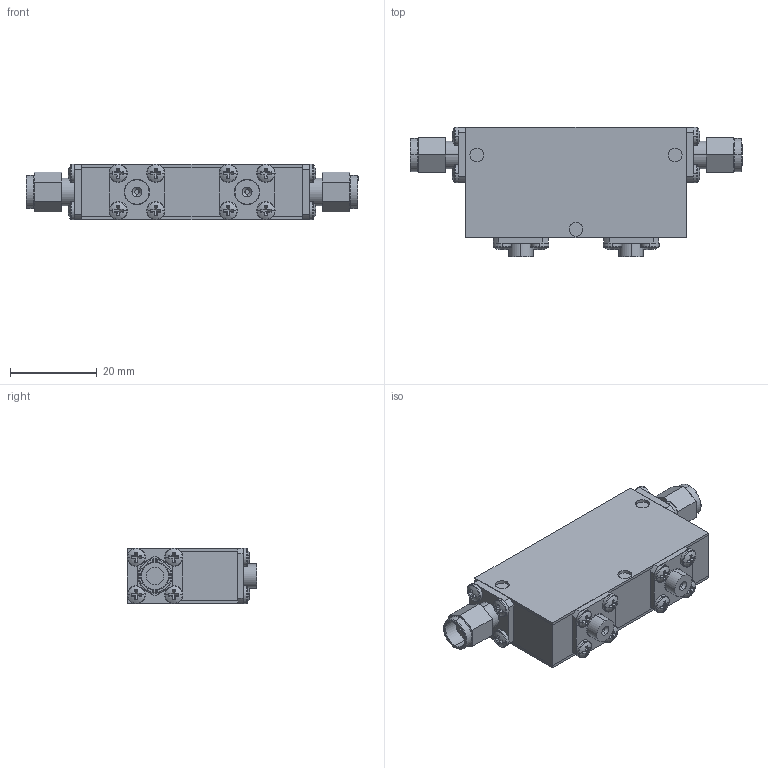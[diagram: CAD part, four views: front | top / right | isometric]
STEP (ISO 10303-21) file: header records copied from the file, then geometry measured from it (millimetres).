
FILE_DESCRIPTION (( 'STEP AP214' ), '1' );
FILE_NAME ('Package 14 Iso MM.step', '2021-12-01T20:58:12', ( '' ), ( '' ), 'SwSTEP 2.0', 'SolidWorks 2016', '' );
FILE_SCHEMA (( 'AUTOMOTIVE_DESIGN' ));
Length unit declared in the file: inch
Products named in the file (6): Package 14 Iso MM; Package Size 14; pan cross head_ai_CR-PHMS 0.086-56x0.125x0.125-N; Delta SMA-Male; Package 14; 030013-1A
Assembly tree (22 placements, depth 2):
  Package 14 Iso MM
    Package 14
    030013-1A  x2
    pan cross head_ai_CR-PHMS 0.086-56x0.125x0.125-N  x16
    Delta SMA-Male  x2
    Package Size 14
Bounding box: 76.56 x 29.93 x 12.88 mm (x, y, z)
Volume: 18299.4 mm3; surface area: 14444.3 mm2
Topology: 22 solids, 22 shells, 554 faces, 1260 edges, 776 vertices
Faces by surface type: plane 314, cylinder 152, torus 48, sphere 32, cone 8
Entity records: 4324 total; most frequent: DIRECTION 784, CARTESIAN_POINT 673, ORIENTED_EDGE 632, EDGE_CURVE 316, AXIS2_PLACEMENT_3D 313, VERTEX_POINT 202, EDGE_LOOP 168, VECTOR 158
